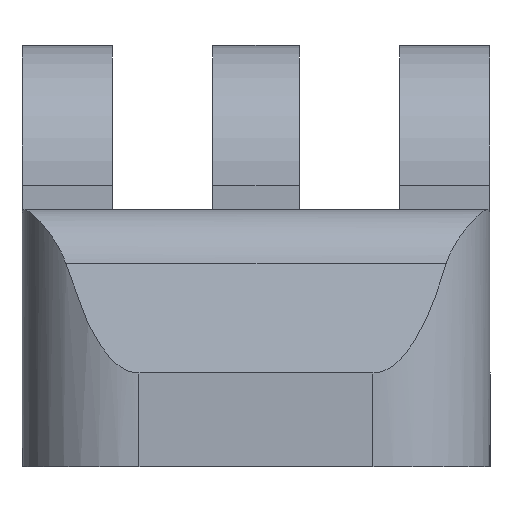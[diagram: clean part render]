
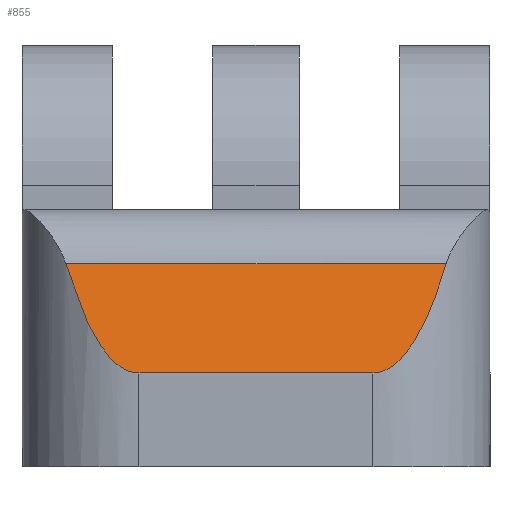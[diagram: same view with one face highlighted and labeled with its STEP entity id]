
A CAD part, left-side view. The second image highlights one B-rep face of the part: STEP entity #855.
In plain terms, the highlighted planar face has unit normal (-0.973, 0, 0.229).
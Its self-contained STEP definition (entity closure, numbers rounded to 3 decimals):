
#17=ELLIPSE('',#949,21.8,5.);
#18=ELLIPSE('',#950,21.8,5.);
#87=LINE('',#1504,#162);
#88=LINE('',#1523,#163);
#162=VECTOR('',#1160,10.);
#163=VECTOR('',#1167,10.);
#240=FACE_OUTER_BOUND('',#293,.T.);
#293=EDGE_LOOP('',(#723,#724,#725,#726));
#415=VERTEX_POINT('',#1490);
#416=VERTEX_POINT('',#1503);
#418=VERTEX_POINT('',#1520);
#419=VERTEX_POINT('',#1522);
#527=EDGE_CURVE('',#416,#415,#87,.T.);
#530=EDGE_CURVE('',#415,#418,#17,.T.);
#531=EDGE_CURVE('',#418,#419,#88,.T.);
#532=EDGE_CURVE('',#419,#416,#18,.T.);
#723=ORIENTED_EDGE('',*,*,#530,.T.);
#724=ORIENTED_EDGE('',*,*,#531,.T.);
#725=ORIENTED_EDGE('',*,*,#532,.T.);
#726=ORIENTED_EDGE('',*,*,#527,.T.);
#815=PLANE('',#948);
#855=ADVANCED_FACE('',(#240),#815,.T.);
#948=AXIS2_PLACEMENT_3D('',#1519,#1163,#1164);
#949=AXIS2_PLACEMENT_3D('',#1521,#1165,#1166);
#950=AXIS2_PLACEMENT_3D('',#1524,#1168,#1169);
#1160=DIRECTION('',(0.,1.,0.));
#1163=DIRECTION('center_axis',(-0.973,0.,
0.229));
#1164=DIRECTION('ref_axis',(0.229,0.,0.973));
#1165=DIRECTION('center_axis',(-0.973,0.,
0.229));
#1166=DIRECTION('ref_axis',(-0.229,0.,-0.973));
#1167=DIRECTION('',(0.,-1.,0.));
#1168=DIRECTION('center_axis',(-0.973,0.,
0.229));
#1169=DIRECTION('ref_axis',(-0.229,0.,-0.973));
#1490=CARTESIAN_POINT('',(-31.4,8.129,8.668));
#1503=CARTESIAN_POINT('',(-31.4,-8.129,8.668));
#1504=CARTESIAN_POINT('',(-31.4,-10.,8.668));
#1519=CARTESIAN_POINT('Origin',(-32.5,-10.,4.));
#1520=CARTESIAN_POINT('',(-32.5,5.,4.));
#1521=CARTESIAN_POINT('Origin',(-27.5,5.,25.219));
#1522=CARTESIAN_POINT('',(-32.5,-5.,4.));
#1523=CARTESIAN_POINT('',(-32.5,-10.,4.));
#1524=CARTESIAN_POINT('Origin',(-27.5,-5.,25.219));
